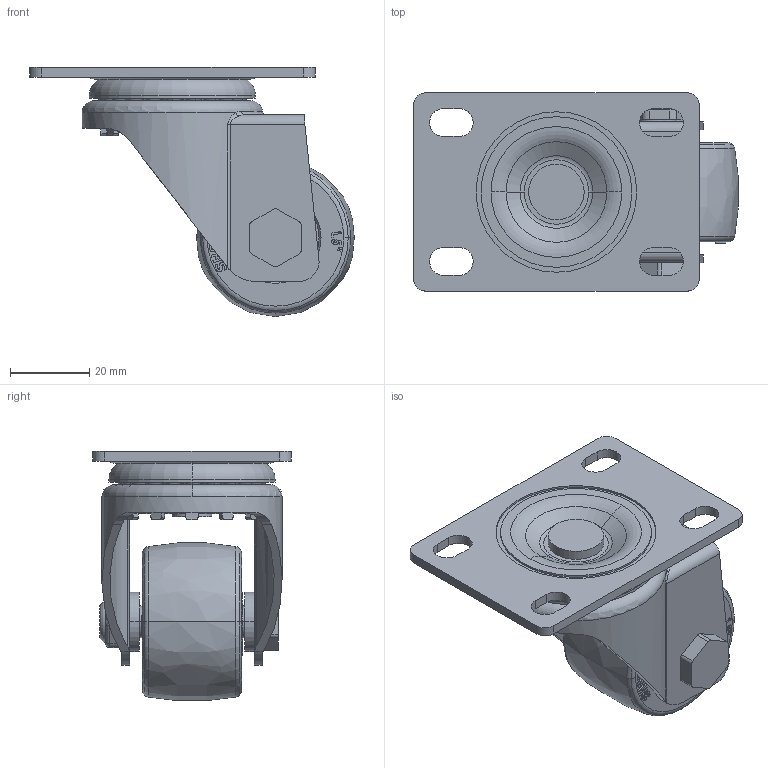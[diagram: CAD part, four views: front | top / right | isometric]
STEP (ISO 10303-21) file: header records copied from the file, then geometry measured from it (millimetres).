
FILE_DESCRIPTION(/* description */ (''),/* implementation_level */ '2;1');
FILE_NAME(/* name */ '18A01_1.5_F.stp',/* time_stamp */ '2022-10-06T14:15:27+08:00',/* author */ (''),/* organization */ (''),/* preprocessor_version */ 'ST-DEVELOPER v14',/* originating_system */ 'SIEMENS PLM Software NX 8.0',/* authorisation */ '');
FILE_SCHEMA (('AUTOMOTIVE_DESIGN { 1 0 10303 214 3 1 1 1 }'));
Length unit declared in the file: millimetre
Products named in the file (1): 18A01_1.5_F
Bounding box: 81.89 x 50 x 62.88 mm (x, y, z)
Volume: 55348 mm3; surface area: 35692.9 mm2
Topology: 1 solids, 4 shells, 1021 faces, 2966 edges, 1919 vertices
Faces by surface type: plane 499, cylinder 241, torus 112, sphere 112, extrusion 27, cone 18, bspline 12
Entity records: 38890 total; most frequent: CARTESIAN_POINT 12953, ORIENTED_EDGE 5706, DIRECTION 5128, EDGE_CURVE 2853, AXIS2_PLACEMENT_3D 1967, VERTEX_POINT 1918, VECTOR 1194, LINE 1167
